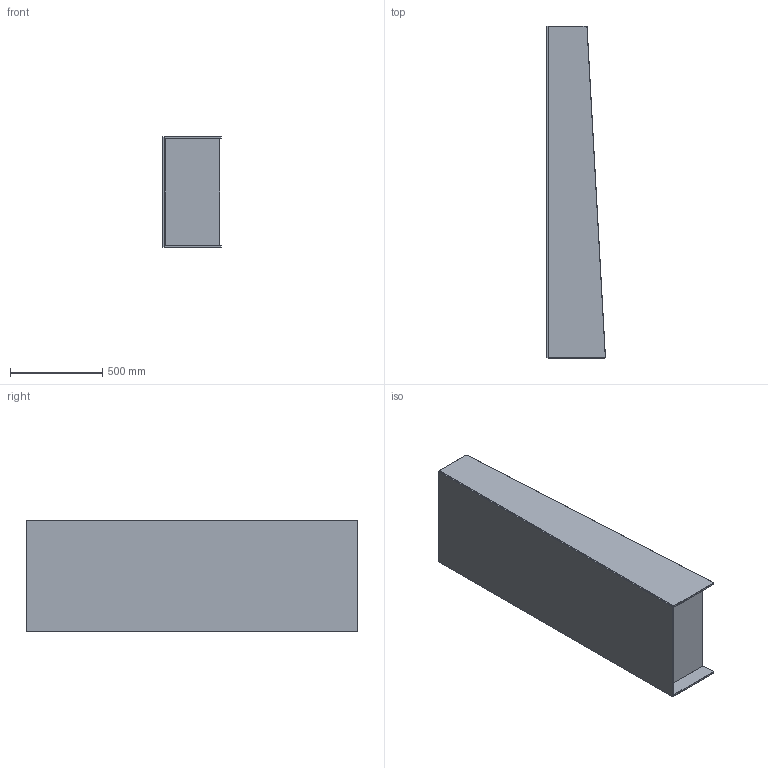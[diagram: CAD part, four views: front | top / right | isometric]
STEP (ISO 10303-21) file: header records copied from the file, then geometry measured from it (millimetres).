
FILE_DESCRIPTION((''),'2;1');
FILE_NAME('C:\AutodeskVault\AreaLavoro\Progetti\SoVeT Italia\4. Complementi_Accessorizes\Olympia\Web file\Olympia Web\P6814.stp','2012-09-20T14:18:24',('Gianluca'),('So.Ve.T. s.r.l.'),'Autodesk Inventor 2013','Autodesk Inventor 2013','IL PROGETTO E'' DI ESCLUSIVA PROPRIETA'' DELLA SO.VE.T. srl. E'' VIETATA OGNI RIPRODUZIONE TOTALE O PARZIALE E QUALSIASI UTILIZZO NON AUTORIZZATO.');
FILE_SCHEMA(('AUTOMOTIVE_DESIGN { 1 0 10303 214 1 1 1 1 }'));
Length unit declared in the file: millimetre
Products named in the file (1): P6814 Contorno semplificato
Bounding box: 319.82 x 1800 x 600 mm (x, y, z)
Volume: 28801974.3 mm3; surface area: 5862798.2 mm2
Topology: 1 solids, 1 shells, 224 faces, 510 edges, 232 vertices
Faces by surface type: plane 116, cone 72, cylinder 36
Entity records: 5811 total; most frequent: DIRECTION 992, CARTESIAN_POINT 911, ORIENTED_EDGE 908, EDGE_CURVE 454, VECTOR 366, LINE 366, AXIS2_PLACEMENT_3D 313, EDGE_LOOP 236
